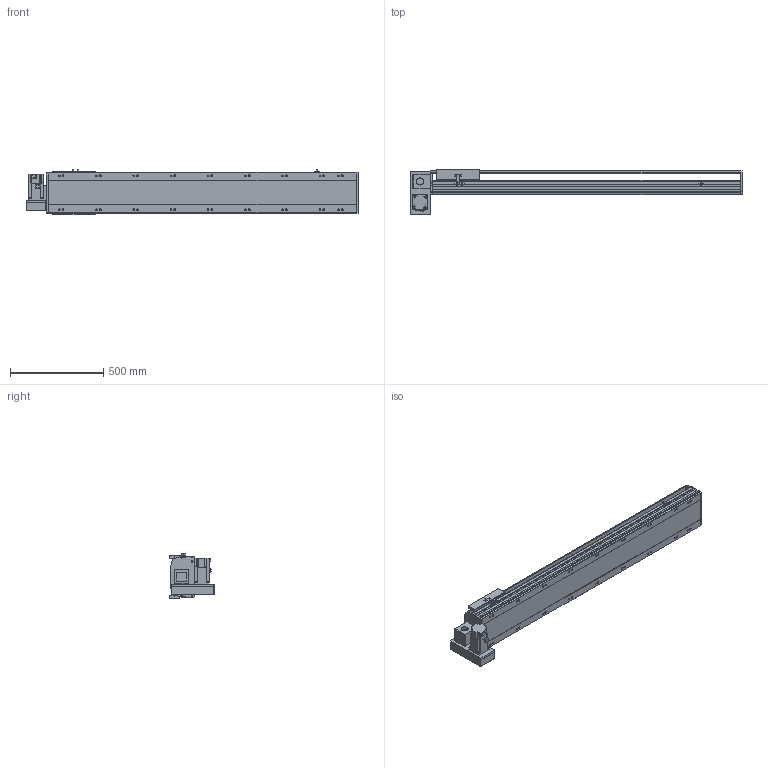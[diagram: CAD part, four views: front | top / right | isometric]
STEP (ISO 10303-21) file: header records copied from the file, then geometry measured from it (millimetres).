
FILE_DESCRIPTION(/* description */ ('STEP AP214'),/* implementation_level */ '2;1');
FILE_NAME(/* name */ 'PBS220-P40-S1300-LD-T75-C1-N(0)',/* time_stamp */ '2022-06-27T09:44:15+02:00',/* author */ ('License CC BY-ND 4.0'),/* organization */ ('CADENAS'),/* preprocessor_version */ 'ST-DEVELOPER v18.102',/* originating_system */ 'PARTsolutions',/* authorisation */ ' ');
FILE_SCHEMA (('AUTOMOTIVE_DESIGN {1 0 10303 214 3 1 1}'));
Length unit declared in the file: millimetre
Products named in the file (7): PBS220-P40-S1300-LD-T75-C1-N(0); PBS220_sensor; PBS220_plant; PBS220_sliser; T75-p1; PBS220T-LD_motors; PBS220-S1300()_body
Assembly tree (8 placements, depth 2):
  PBS220-P40-S1300-LD-T75-C1-N(0)
    PBS220_sensor  x3
    PBS220_plant
    PBS220_sliser
    T75-p1
    PBS220T-LD_motors
    PBS220-S1300()_body
Bounding box: 1784 x 239 x 238.5 mm (x, y, z)
Volume: 25495714.9 mm3; surface area: 2444718 mm2
Topology: 8 solids, 8 shells, 926 faces, 2424 edges, 1576 vertices
Faces by surface type: plane 602, cylinder 282, cone 42
Full cylindrical faces by diameter (mm): 2.013 x4, 4.5 x14, 4.917 x4, 6 x7, 6.647 x8, 8 x10, 8.376 x18, 8.5 x18, 10 x6, 14 x18, 38 x2, 40 x1, 70 x1
Entity records: 25940 total; most frequent: CARTESIAN_POINT 4558, DIRECTION 4509, ORIENTED_EDGE 4142, EDGE_CURVE 2071, AXIS2_PLACEMENT_3D 1581, VERTEX_POINT 1432, LINE 1347, VECTOR 1347
